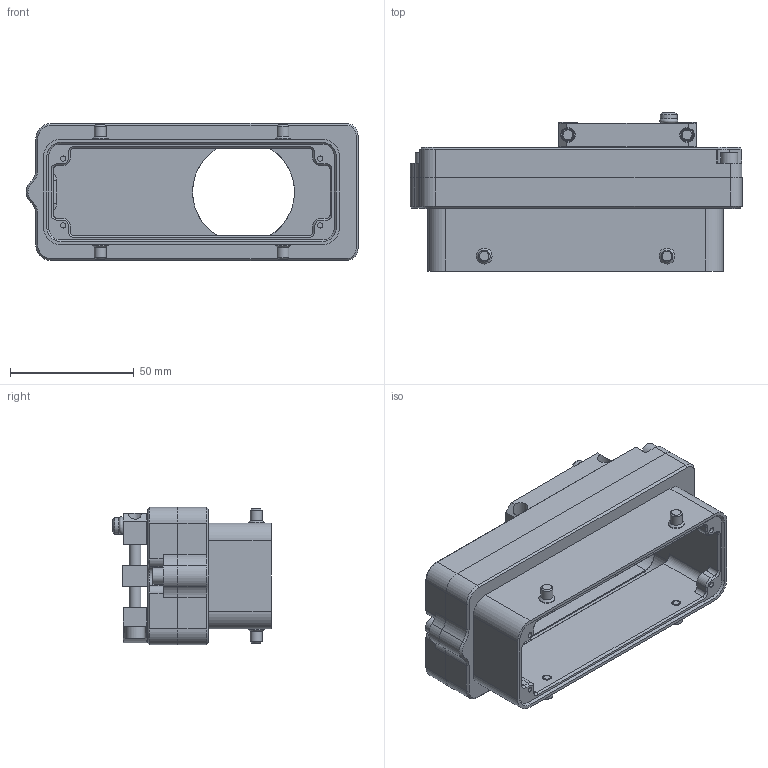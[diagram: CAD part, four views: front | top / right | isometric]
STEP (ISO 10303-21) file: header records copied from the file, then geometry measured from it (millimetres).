
FILE_DESCRIPTION((''),'2;1');
FILE_NAME('C:\old_Drawings\shrinkwrapped website .stp files\302000-20-STP.stp','2011-11-02T09:21:59',('GaryRobinson'),(''),'Autodesk Inventor 2011','Autodesk Inventor 2011','');
FILE_SCHEMA(('AUTOMOTIVE_DESIGN { 1 0 10303 214 1 1 1 1 }'));
Length unit declared in the file: inch
Products named in the file (1): 302000-20-STP
Bounding box: 134.34 x 64.12 x 55.56 mm (x, y, z)
Surface area: 59565.5 mm2 (no closed solid volume)
Topology: 0 solids, 16 shells, 445 faces, 1075 edges, 672 vertices
Faces by surface type: plane 237, cylinder 121, cone 73, torus 14
Full cylindrical faces by diameter (mm): 0.025 x1, 2.159 x4, 2.642 x4, 3.302 x3, 3.505 x6, 4.166 x3, 4.572 x3, 4.826 x6, 5.207 x4, 5.842 x2, 6.426 x4, 6.858 x4, 7.925 x2, 41.275 x1
Entity records: 12896 total; most frequent: CARTESIAN_POINT 2296, DIRECTION 2146, ORIENTED_EDGE 1950, EDGE_CURVE 975, AXIS2_PLACEMENT_3D 803, VERTEX_POINT 651, EDGE_LOOP 576, VECTOR 540
